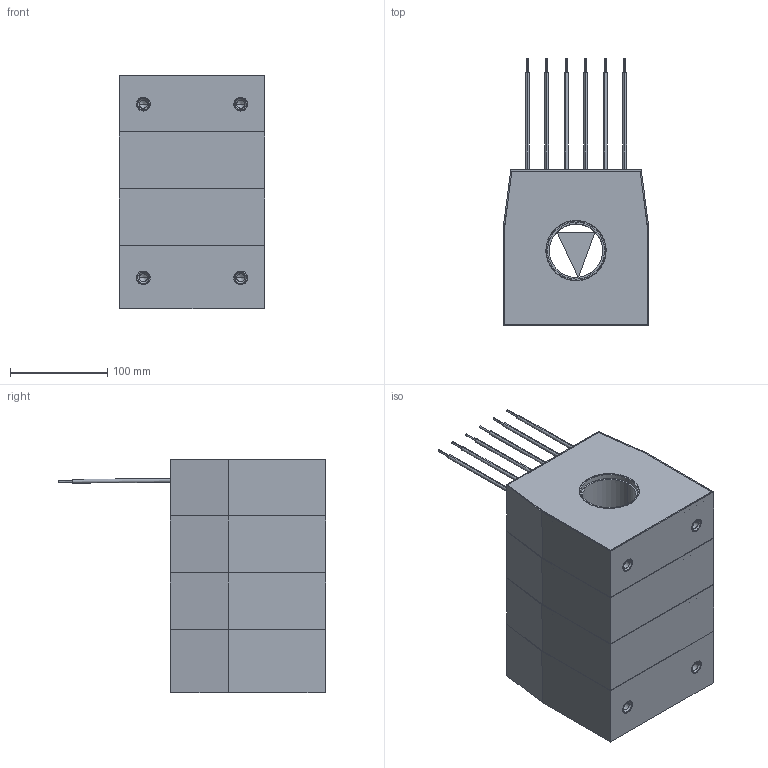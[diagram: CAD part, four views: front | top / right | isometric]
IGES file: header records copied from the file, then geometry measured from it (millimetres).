
Start section: IGES file generated from Kompas f.0 for Windows drawing by the IGES translator from Ascon Ltd., translator version IGESOUT-5.1.
Global section: file name: C:\Ðàáîòà\Èçâåùåíèÿ 5\ÒØÏ-ÍÒÇ-0.66-61...,71...,81... (ñáîðíûé)\Âåðñèÿ îò 21.05.24\3D ìîäåëü\ÒØÏ-ÍÒÇ-0,66-74Ñ\ÒØÏ-ÍÒÇ-0,66-74À (55 ìì, 4-é ãàáàðèò).igs; native system: Kompas( 32 bit ) for Windows; preprocessor: 1.0; author: 123; organization: Microsoft; date: -17750727:093616; units: millimetre
Bounding box: 150 x 274.82 x 240.5 mm (x, y, z)
Volume: 789309.4 mm3; surface area: 525780.2 mm2
Topology: 19 solids, 19 shells, 402 faces, 941 edges, 601 vertices
Faces by surface type: revolution 206, bspline 196
